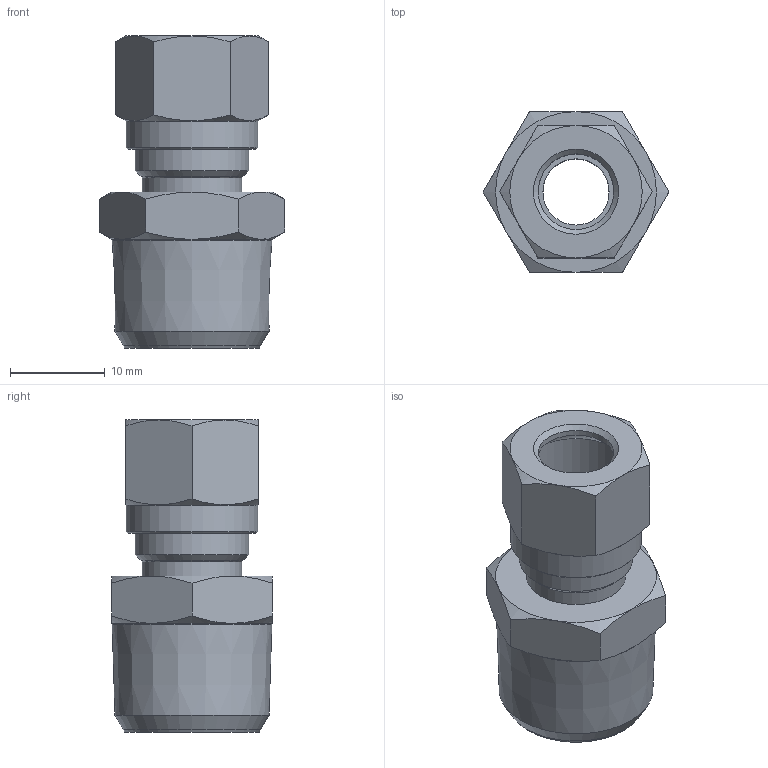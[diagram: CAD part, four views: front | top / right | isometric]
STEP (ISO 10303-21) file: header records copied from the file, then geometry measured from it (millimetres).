
FILE_DESCRIPTION(('Bauteilbeschreibung','HiCAD-Model','HiCAD-STEP-TRANSLATION','Bauteilbeschreibung'),'2;1');
FILE_NAME('B:/ABGLEICH/ZEICHNUNGEN/STEP FÜR INTERNET/STEP/201/94806_201_8_3-8.STP','2011-11-09T15:25:21+00:00',('Konstrukteur'),('Konstrukteur Firma GmbH'),' HiCAD neXt 2008, Step 3.1.1401.2J ','HiCAD neXt 2008','confidential');
FILE_SCHEMA(('AUTOMOTIVE_DESIGN { 1 2 10303 214 0 1 1 1 }'));
Length unit declared in the file: millimetre
Products named in the file (8): A4806_201_8_3_8; A6803_12MM ; A6803012MM0; DIN 13_M12X1; A4806; A48060; R 3_8; DIN0130M12X1
Assembly tree (7 placements, depth 3):
  A4806_201_8_3_8
    A6803_12MM 
    A6803012MM0
      DIN 13_M12X1
    A4806
    A48060
      R 3_8
      DIN0130M12X1
Bounding box: 19.63 x 17 x 33 mm (x, y, z)
Volume: 4443.6 mm3; surface area: 5573.7 mm2
Topology: 5 solids, 5 shells, 70 faces, 149 edges, 91 vertices
Faces by surface type: cone 34, plane 24, cylinder 12
Full cylindrical faces by diameter (mm): 7 x1, 8 x2, 10.5 x1, 10.773 x3, 12 x3, 13.9 x1, 16.893 x1
Entity records: 2367 total; most frequent: CARTESIAN_POINT 358, DIRECTION 292, ORIENTED_EDGE 220, AXIS2_PLACEMENT_3D 140, COLOUR_RGB 115, PRESENTATION_STYLE_ASSIGNMENT 115, CURVE_STYLE 110, DRAUGHTING_PRE_DEFINED_CURVE_FONT 110
